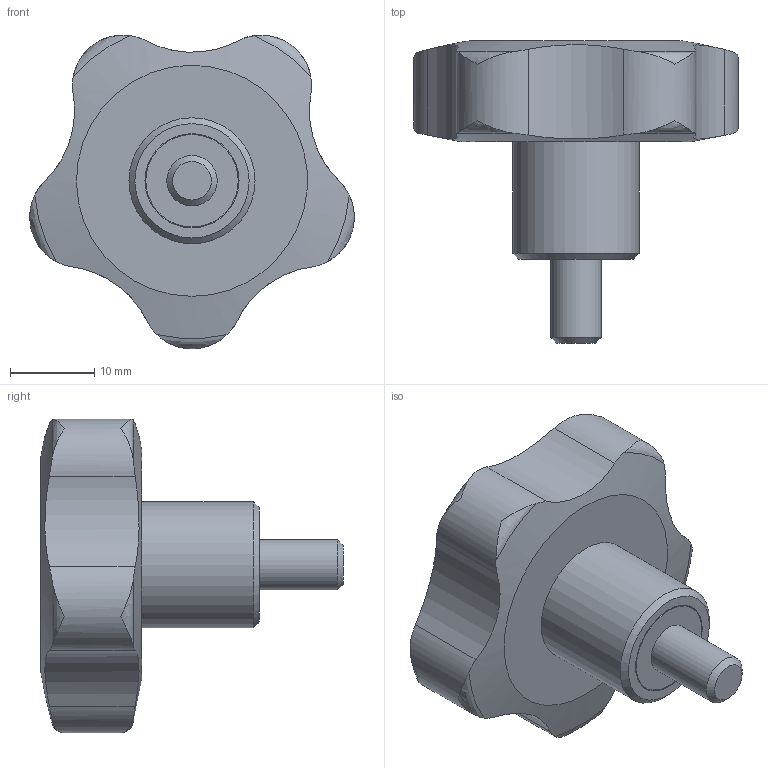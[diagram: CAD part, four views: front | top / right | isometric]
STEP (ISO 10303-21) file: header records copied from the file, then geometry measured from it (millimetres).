
FILE_DESCRIPTION( ( 'STEP AP203' ), '1' );
FILE_NAME( 'C:/Temp/Ganter_Step_05_03_2020/data/2_2/gn_5337_4/gn_5337_4_s/Star knob GN 5337.4-40-M6-10.stp', '2020-03-05T12:09:42', ( 'License CC BY-ND 4.0' ), ( 'CADENAS' ), ' ', 'PARTsolutions', ' ' );
FILE_SCHEMA( ( 'CONFIG_CONTROL_DESIGN' ) );
Length unit declared in the file: millimetre
Products named in the file (1): _Star knob GN 5337.4-40-M6-10
Bounding box: 38.62 x 36 x 37.33 mm (x, y, z)
Volume: 13756.7 mm3; surface area: 4042.4 mm2
Topology: 1 solids, 1 shells, 34 faces, 95 edges, 66 vertices
Faces by surface type: cylinder 14, torus 10, plane 5, cone 3, bspline 1, sphere 1
Full cylindrical faces by diameter (mm): 6 x1, 11 x1, 11.2 x1, 15 x1
Entity records: 1467 total; most frequent: CARTESIAN_POINT 679, ORIENTED_EDGE 164, DIRECTION 122, EDGE_CURVE 82, VERTEX_POINT 63, AXIS2_PLACEMENT_3D 56, B_SPLINE_CURVE_WITH_KNOTS 50, EDGE_LOOP 46
